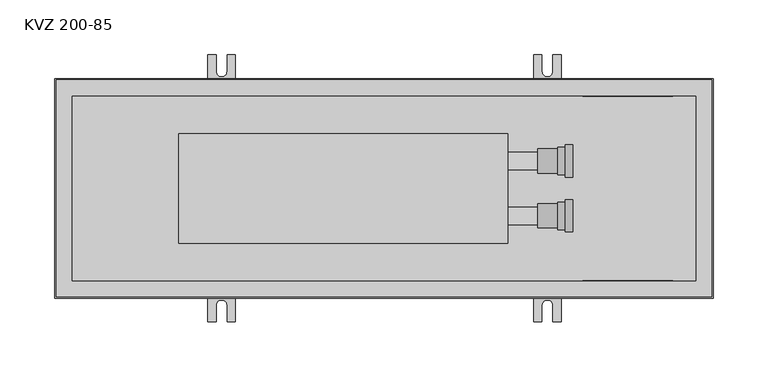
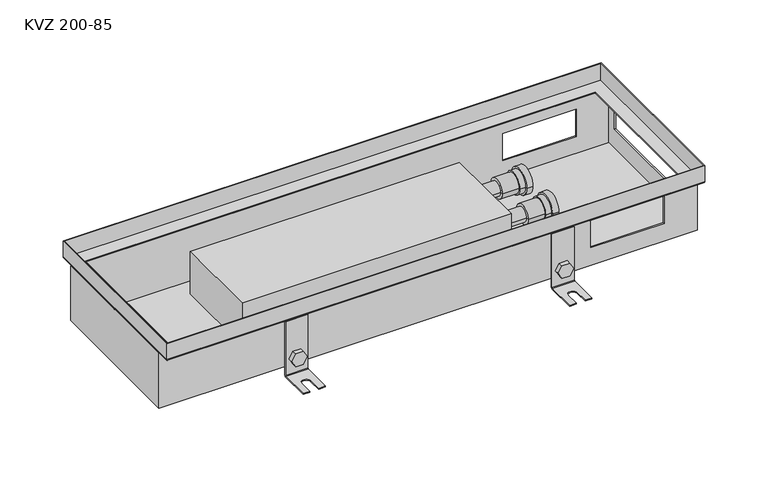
"""IFC4 building model written with IfcOpenShell, lengths in millimetres: proxy geometry, TECHNO_Конвектор встраиваемый_Usual_KVZ-200_85-105-120 : KVZ 200-85."""

from ifc_helpers import new_model, si_unit, point, frame, frame_2d, origin, place, context, project, spatial, polyline, circle_curve, ellipse_curve, trimmed, segment, composite_curve, outline, extrude, faceted_brep, source, transform, mapped, element, save
from ifc_brep_helpers import plane_surface, cylinder_surface, revolved_surface, advanced_brep


def kvz_200_85_5eb95e34(model_context):
    return source(origin(), model_context, "Body", "SolidModel", [
        extrude(outline(composite_curve([segment(trimmed(circle_curve(frame_2d((-75.5, 449.0)), 7.5), [point((-75.5, 441.5))], [point((-75.5, 456.5))], False, "CARTESIAN"), True, "CONTINUOUS"), segment(trimmed(circle_curve(frame_2d((-75.5, 449.0)), 7.5), [point((-75.5, 456.5))], [point((-75.5, 441.5))], False, "CARTESIAN"), True, "CONTINUOUS")], self_intersect=False)), frame((0.0, 85.2, 0.0), z_axis=(0.0, 1.0, 0.0), x_axis=(0.0, 0.0, 1.0)), (0.0, 0.0, 1.0), 1.5),
        extrude(outline(polyline([(-75.5, 440.339746), (-83.0, 444.669873), (-83.0, 453.330127), (-75.5, 457.660254), (-68.0, 453.330127), (-68.0, 444.669873), (-75.5, 440.339746)])), frame((0.0, 87.9, 0.0), z_axis=(0.0, 1.0, 0.0), x_axis=(0.0, 0.0, 1.0)), (0.0, 0.0, 1.0), 5.1),
        advanced_brep(
        [(461.5, 87.9, -30.5), (461.5, 86.7, -30.5), (461.5, 86.7, -93.5), (461.5, 88.7, -95.5), (461.5, 121.7, -95.5), (461.5, 121.7, -94.3), (461.5, 88.7, -94.3), (461.5, 87.9, -93.5), (436.5, 87.9, -30.5), (436.5, 87.9, -93.5), (436.5, 88.7, -94.3), (436.5, 121.7, -94.3), (436.5, 121.7, -95.5), (436.5, 88.7, -95.5), (436.5, 86.7, -93.5), (436.5, 86.7, -30.5), (454.0, 121.7, -94.3), (454.0, 106.7, -94.3), (444.0, 106.7, -94.3), (444.0, 121.7, -94.3), (444.0, 121.7, -95.5), (454.0, 121.7, -95.5), (444.0, 106.7, -95.5), (454.0, 106.7, -95.5)],
        [
            (0, 1),
            (1, 2),
            (2, 3, circle_curve(frame((461.5, 88.7, -93.5), z_axis=(1.0, 0.0, 0.0), x_axis=(0.0, 1.0, 0.0)), 2.0)),
            (3, 4),
            (4, 5),
            (5, 6),
            (6, 7, circle_curve(frame((461.5, 88.7, -93.5), z_axis=(-1.0, 0.0, 0.0), x_axis=(0.0, 1.0, 0.0)), 0.8)),
            (7, 0),
            (8, 9),
            (9, 10, circle_curve(frame((436.5, 88.7, -93.5), z_axis=(1.0, 0.0, 0.0), x_axis=(0.0, 1.0, 0.0)), 0.8)),
            (10, 11),
            (11, 12),
            (12, 13),
            (13, 14, circle_curve(frame((436.5, 88.7, -93.5), z_axis=(-1.0, 0.0, 0.0), x_axis=(0.0, 1.0, 0.0)), 2.0)),
            (14, 15),
            (15, 8),
            (7, 9),
            (8, 0),
            (6, 10),
            (5, 16),
            (16, 17),
            (17, 18, circle_curve(frame((449.0, 106.7, -94.3), z_axis=(0.0, 0.0, -1.0), x_axis=(1.0, 0.0, 0.0)), 5.0)),
            (18, 19),
            (19, 11),
            (19, 20),
            (20, 12),
            (4, 21),
            (21, 16),
            (3, 13),
            (20, 22),
            (22, 23, circle_curve(frame((449.0, 106.7, -95.5), z_axis=(0.0, 0.0, 1.0), x_axis=(1.0, 0.0, 0.0)), 5.0)),
            (23, 21),
            (2, 14),
            (1, 15),
            (18, 22),
            (23, 17),
        ],
        [
            plane_surface(frame((461.5, 87.9, -30.5), z_axis=(1.0, 0.0, 0.0), x_axis=(0.0, 0.0, -1.0))),
            plane_surface(frame((436.5, 87.9, -30.5), z_axis=(-1.0, 0.0, 0.0), x_axis=(0.0, 0.0, 1.0))),
            plane_surface(frame((461.5, 87.9, -30.5), z_axis=(0.0, 1.0, 0.0), x_axis=(-1.0, 0.0, 0.0))),
            revolved_surface(polyline([(436.5, 89.5, -93.5), (461.5, 89.5, -93.5)]), (436.5, 88.7, -93.5), (-1.0, 0.0, 0.0)),
            plane_surface(frame((461.5, 88.7, -94.3), z_axis=(0.0, 0.0, 1.0), x_axis=(-1.0, 0.0, 0.0))),
            plane_surface(frame((461.5, 121.7, -94.3), z_axis=(0.0, 1.0, 0.0), x_axis=(-1.0, 0.0, 0.0))),
            plane_surface(frame((461.5, 121.7, -95.5), z_axis=(0.0, 0.0, -1.0), x_axis=(-1.0, 0.0, 0.0))),
            cylinder_surface(frame((436.5, 88.7, -93.5), z_axis=(1.0, 0.0, 0.0), x_axis=(0.0, 1.0, 0.0)), 2.0),
            plane_surface(frame((461.5, 86.7, -93.5), z_axis=(0.0, -1.0, 0.0), x_axis=(-1.0, 0.0, 0.0))),
            plane_surface(frame((461.5, 86.7, -30.5), z_axis=(0.0, 0.0, 1.0), x_axis=(-1.0, 0.0, 0.0))),
            plane_surface(frame((444.0, 106.7, -94.3), z_axis=(1.0, 0.0, 0.0), x_axis=(0.0, 0.0, -1.0))),
            plane_surface(frame((454.0, 121.7, -94.3), z_axis=(-1.0, 0.0, 0.0), x_axis=(0.0, 0.0, -1.0))),
            revolved_surface(polyline([(454.0, 106.7, -94.3), (454.0, 106.7, -95.5)]), (449.0, 106.7, -95.5), (0.0, 0.0, 1.0)),
        ],
        [
            (0, [[1, 2, 3, 4, 5, 6, 7, 8]]),
            (1, [[9, 10, 11, 12, 13, 14, 15, 16]]),
            (2, [[17, -9, 18, -8]]),
            (3, [[19, -10, -17, -7]]),
            (4, [[20, 21, 22, 23, 24, -11, -19, -6]]),
            (5, [[-24, 25, 26, -12]]),
            (5, [[27, 28, -20, -5]]),
            (6, [[29, -13, -26, 30, 31, 32, -27, -4]]),
            (7, [[33, -14, -29, -3]]),
            (8, [[34, -15, -33, -2]]),
            (9, [[-18, -16, -34, -1]]),
            (10, [[-30, -25, -23, 35]]),
            (11, [[-21, -28, -32, 36]]),
            (12, [[-22, -36, -31, -35]]),
        ],
    ),
        extrude(outline(composite_curve([segment(trimmed(circle_curve(frame_2d((-75.5, 449.0)), 7.5), [point((-75.5, 441.5))], [point((-75.5, 456.5))], False, "CARTESIAN"), True, "CONTINUOUS"), segment(trimmed(circle_curve(frame_2d((-75.5, 449.0)), 7.5), [point((-75.5, 456.5))], [point((-75.5, 441.5))], False, "CARTESIAN"), True, "CONTINUOUS")], self_intersect=False)), frame((0.0, -86.7, 0.0), z_axis=(0.0, 1.0, 0.0), x_axis=(0.0, 0.0, 1.0)), (0.0, 0.0, 1.0), 1.5),
        extrude(outline(polyline([(-75.5, 440.339746), (-83.0, 444.669873), (-83.0, 453.330127), (-75.5, 457.660254), (-68.0, 453.330127), (-68.0, 444.669873), (-75.5, 440.339746)])), frame((0.0, -93.0, 0.0), z_axis=(0.0, 1.0, 0.0), x_axis=(0.0, 0.0, 1.0)), (0.0, 0.0, 1.0), 5.1),
        advanced_brep(
        [(461.5, -87.9, -30.5), (461.5, -87.9, -93.5), (461.5, -88.7, -94.3), (461.5, -121.7, -94.3), (461.5, -121.7, -95.5), (461.5, -88.7, -95.5), (461.5, -86.7, -93.5), (461.5, -86.7, -30.5), (436.5, -87.9, -30.5), (436.5, -86.7, -30.5), (436.5, -86.7, -93.5), (436.5, -88.7, -95.5), (436.5, -121.7, -95.5), (436.5, -121.7, -94.3), (436.5, -88.7, -94.3), (436.5, -87.9, -93.5), (444.0, -121.7, -94.3), (444.0, -106.7, -94.3), (454.0, -106.7, -94.3), (454.0, -121.7, -94.3), (454.0, -121.7, -95.5), (444.0, -121.7, -95.5), (454.0, -106.7, -95.5), (444.0, -106.7, -95.5)],
        [
            (0, 1),
            (1, 2, circle_curve(frame((461.5, -88.7, -93.5), z_axis=(-1.0, 0.0, 0.0), x_axis=(0.0, -1.0, 0.0)), 0.8)),
            (2, 3),
            (3, 4),
            (4, 5),
            (5, 6, circle_curve(frame((461.5, -88.7, -93.5), z_axis=(1.0, 0.0, 0.0), x_axis=(0.0, -1.0, 0.0)), 2.0)),
            (6, 7),
            (7, 0),
            (8, 9),
            (9, 10),
            (10, 11, circle_curve(frame((436.5, -88.7, -93.5), z_axis=(-1.0, 0.0, 0.0), x_axis=(0.0, -1.0, 0.0)), 2.0)),
            (11, 12),
            (12, 13),
            (13, 14),
            (14, 15, circle_curve(frame((436.5, -88.7, -93.5), z_axis=(1.0, 0.0, 0.0), x_axis=(0.0, -1.0, 0.0)), 0.8)),
            (15, 8),
            (0, 8),
            (15, 1),
            (14, 2),
            (13, 16),
            (16, 17),
            (17, 18, circle_curve(frame((449.0, -106.7, -94.3), z_axis=(0.0, 0.0, -1.0), x_axis=(1.0, 0.0, 0.0)), 5.0)),
            (18, 19),
            (19, 3),
            (19, 20),
            (20, 4),
            (12, 21),
            (21, 16),
            (20, 22),
            (22, 23, circle_curve(frame((449.0, -106.7, -95.5), z_axis=(0.0, 0.0, 1.0), x_axis=(1.0, 0.0, 0.0)), 5.0)),
            (23, 21),
            (11, 5),
            (10, 6),
            (9, 7),
            (23, 17),
            (18, 22),
        ],
        [
            plane_surface(frame((461.5, -87.9, -30.5), z_axis=(1.0, 0.0, 0.0), x_axis=(0.0, 0.0, -1.0))),
            plane_surface(frame((436.5, -87.9, -30.5), z_axis=(-1.0, 0.0, 0.0), x_axis=(0.0, 0.0, 1.0))),
            plane_surface(frame((461.5, -87.9, -30.5), z_axis=(0.0, -1.0, 0.0), x_axis=(-1.0, 0.0, 0.0))),
            revolved_surface(polyline([(436.5, -89.5, -93.5), (461.5, -89.5, -93.5)]), (436.5, -88.7, -93.5), (-1.0, 0.0, 0.0)),
            plane_surface(frame((461.5, -88.7, -94.3), z_axis=(0.0, 0.0, 1.0), x_axis=(-1.0, 0.0, 0.0))),
            plane_surface(frame((461.5, -121.7, -94.3), z_axis=(0.0, -1.0, 0.0), x_axis=(-1.0, 0.0, 0.0))),
            plane_surface(frame((461.5, -121.7, -95.5), z_axis=(0.0, 0.0, -1.0), x_axis=(-1.0, 0.0, 0.0))),
            cylinder_surface(frame((436.5, -88.7, -93.5), z_axis=(1.0, 0.0, 0.0), x_axis=(0.0, -1.0, 0.0)), 2.0),
            plane_surface(frame((461.5, -86.7, -93.5), z_axis=(0.0, 1.0, 0.0), x_axis=(-1.0, 0.0, 0.0))),
            plane_surface(frame((461.5, -86.7, -30.5), z_axis=(0.0, 0.0, 1.0), x_axis=(-1.0, 0.0, 0.0))),
            plane_surface(frame((444.0, -106.7, -94.3), z_axis=(1.0, 0.0, 0.0), x_axis=(0.0, 0.0, -1.0))),
            plane_surface(frame((454.0, -121.7, -94.3), z_axis=(-1.0, 0.0, 0.0), x_axis=(0.0, 0.0, -1.0))),
            revolved_surface(polyline([(454.0, -106.7, -94.3), (454.0, -106.7, -95.5)]), (449.0, -106.7, -95.5), (0.0, 0.0, 1.0)),
        ],
        [
            (0, [[1, 2, 3, 4, 5, 6, 7, 8]]),
            (1, [[9, 10, 11, 12, 13, 14, 15, 16]]),
            (2, [[-1, 17, -16, 18]]),
            (3, [[-2, -18, -15, 19]]),
            (4, [[-3, -19, -14, 20, 21, 22, 23, 24]]),
            (5, [[-4, -24, 25, 26]]),
            (5, [[-13, 27, 28, -20]]),
            (6, [[-5, -26, 29, 30, 31, -27, -12, 32]]),
            (7, [[-6, -32, -11, 33]]),
            (8, [[-7, -33, -10, 34]]),
            (9, [[-8, -34, -9, -17]]),
            (10, [[35, -21, -28, -31]]),
            (11, [[36, -29, -25, -23]]),
            (12, [[-35, -30, -36, -22]]),
        ],
    ),
        extrude(outline(composite_curve([segment(trimmed(circle_curve(frame_2d((-75.5, 152.0)), 7.5), [point((-75.5, 144.5))], [point((-75.5, 159.5))], False, "CARTESIAN"), True, "CONTINUOUS"), segment(trimmed(circle_curve(frame_2d((-75.5, 152.0)), 7.5), [point((-75.5, 159.5))], [point((-75.5, 144.5))], False, "CARTESIAN"), True, "CONTINUOUS")], self_intersect=False)), frame((0.0, 85.2, 0.0), z_axis=(0.0, 1.0, 0.0), x_axis=(0.0, 0.0, 1.0)), (0.0, 0.0, 1.0), 1.5),
        extrude(outline(polyline([(-75.5, 143.339746), (-83.0, 147.669873), (-83.0, 156.330127), (-75.5, 160.660254), (-68.0, 156.330127), (-68.0, 147.669873), (-75.5, 143.339746)])), frame((0.0, 87.9, 0.0), z_axis=(0.0, 1.0, 0.0), x_axis=(0.0, 0.0, 1.0)), (0.0, 0.0, 1.0), 5.1),
        advanced_brep(
        [(164.5, 87.9, -30.5), (164.5, 86.7, -30.5), (164.5, 86.7, -93.5), (164.5, 88.7, -95.5), (164.5, 121.7, -95.5), (164.5, 121.7, -94.3), (164.5, 88.7, -94.3), (164.5, 87.9, -93.5), (139.5, 87.9, -30.5), (139.5, 87.9, -93.5), (139.5, 88.7, -94.3), (139.5, 121.7, -94.3), (139.5, 121.7, -95.5), (139.5, 88.7, -95.5), (139.5, 86.7, -93.5), (139.5, 86.7, -30.5), (157.0, 121.7, -94.3), (157.0, 106.7, -94.3), (147.0, 106.7, -94.3), (147.0, 121.7, -94.3), (147.0, 121.7, -95.5), (157.0, 121.7, -95.5), (147.0, 106.7, -95.5), (157.0, 106.7, -95.5)],
        [
            (0, 1),
            (1, 2),
            (2, 3, circle_curve(frame((164.5, 88.7, -93.5), z_axis=(1.0, 0.0, 0.0), x_axis=(0.0, 1.0, 0.0)), 2.0)),
            (3, 4),
            (4, 5),
            (5, 6),
            (6, 7, circle_curve(frame((164.5, 88.7, -93.5), z_axis=(-1.0, 0.0, 0.0), x_axis=(0.0, 1.0, 0.0)), 0.8)),
            (7, 0),
            (8, 9),
            (9, 10, circle_curve(frame((139.5, 88.7, -93.5), z_axis=(1.0, 0.0, 0.0), x_axis=(0.0, 1.0, 0.0)), 0.8)),
            (10, 11),
            (11, 12),
            (12, 13),
            (13, 14, circle_curve(frame((139.5, 88.7, -93.5), z_axis=(-1.0, 0.0, 0.0), x_axis=(0.0, 1.0, 0.0)), 2.0)),
            (14, 15),
            (15, 8),
            (7, 9),
            (8, 0),
            (6, 10),
            (5, 16),
            (16, 17),
            (17, 18, circle_curve(frame((152.0, 106.7, -94.3), z_axis=(0.0, 0.0, -1.0), x_axis=(1.0, 0.0, 0.0)), 5.0)),
            (18, 19),
            (19, 11),
            (19, 20),
            (20, 12),
            (4, 21),
            (21, 16),
            (3, 13),
            (20, 22),
            (22, 23, circle_curve(frame((152.0, 106.7, -95.5), z_axis=(0.0, 0.0, 1.0), x_axis=(1.0, 0.0, 0.0)), 5.0)),
            (23, 21),
            (2, 14),
            (1, 15),
            (18, 22),
            (23, 17),
        ],
        [
            plane_surface(frame((164.5, 87.9, -30.5), z_axis=(1.0, 0.0, 0.0), x_axis=(0.0, 0.0, -1.0))),
            plane_surface(frame((139.5, 87.9, -30.5), z_axis=(-1.0, 0.0, 0.0), x_axis=(0.0, 0.0, 1.0))),
            plane_surface(frame((164.5, 87.9, -30.5), z_axis=(0.0, 1.0, 0.0), x_axis=(-1.0, 0.0, 0.0))),
            revolved_surface(polyline([(139.5, 89.5, -93.5), (164.5, 89.5, -93.5)]), (139.5, 88.7, -93.5), (-1.0, 0.0, 0.0)),
            plane_surface(frame((164.5, 88.7, -94.3), z_axis=(0.0, 0.0, 1.0), x_axis=(-1.0, 0.0, 0.0))),
            plane_surface(frame((164.5, 121.7, -94.3), z_axis=(0.0, 1.0, 0.0), x_axis=(-1.0, 0.0, 0.0))),
            plane_surface(frame((164.5, 121.7, -95.5), z_axis=(0.0, 0.0, -1.0), x_axis=(-1.0, 0.0, 0.0))),
            cylinder_surface(frame((139.5, 88.7, -93.5), z_axis=(1.0, 0.0, 0.0), x_axis=(0.0, 1.0, 0.0)), 2.0),
            plane_surface(frame((164.5, 86.7, -93.5), z_axis=(0.0, -1.0, 0.0), x_axis=(-1.0, 0.0, 0.0))),
            plane_surface(frame((164.5, 86.7, -30.5), z_axis=(0.0, 0.0, 1.0), x_axis=(-1.0, 0.0, 0.0))),
            plane_surface(frame((147.0, 106.7, -94.3), z_axis=(1.0, 0.0, 0.0), x_axis=(0.0, 0.0, -1.0))),
            plane_surface(frame((157.0, 121.7, -94.3), z_axis=(-1.0, 0.0, 0.0), x_axis=(0.0, 0.0, -1.0))),
            revolved_surface(polyline([(157.0, 106.7, -94.3), (157.0, 106.7, -95.5)]), (152.0, 106.7, -95.5), (0.0, 0.0, 1.0)),
        ],
        [
            (0, [[1, 2, 3, 4, 5, 6, 7, 8]]),
            (1, [[9, 10, 11, 12, 13, 14, 15, 16]]),
            (2, [[17, -9, 18, -8]]),
            (3, [[19, -10, -17, -7]]),
            (4, [[20, 21, 22, 23, 24, -11, -19, -6]]),
            (5, [[-24, 25, 26, -12]]),
            (5, [[27, 28, -20, -5]]),
            (6, [[29, -13, -26, 30, 31, 32, -27, -4]]),
            (7, [[33, -14, -29, -3]]),
            (8, [[34, -15, -33, -2]]),
            (9, [[-18, -16, -34, -1]]),
            (10, [[-30, -25, -23, 35]]),
            (11, [[-21, -28, -32, 36]]),
            (12, [[-22, -36, -31, -35]]),
        ],
    ),
        extrude(outline(composite_curve([segment(trimmed(circle_curve(frame_2d((-75.5, 152.0)), 7.5), [point((-75.5, 144.5))], [point((-75.5, 159.5))], False, "CARTESIAN"), True, "CONTINUOUS"), segment(trimmed(circle_curve(frame_2d((-75.5, 152.0)), 7.5), [point((-75.5, 159.5))], [point((-75.5, 144.5))], False, "CARTESIAN"), True, "CONTINUOUS")], self_intersect=False)), frame((0.0, -86.7, 0.0), z_axis=(0.0, 1.0, 0.0), x_axis=(0.0, 0.0, 1.0)), (0.0, 0.0, 1.0), 1.5),
        extrude(outline(polyline([(-75.5, 143.339746), (-83.0, 147.669873), (-83.0, 156.330127), (-75.5, 160.660254), (-68.0, 156.330127), (-68.0, 147.669873), (-75.5, 143.339746)])), frame((0.0, -93.0, 0.0), z_axis=(0.0, 1.0, 0.0), x_axis=(0.0, 0.0, 1.0)), (0.0, 0.0, 1.0), 5.1),
        advanced_brep(
        [(164.5, -87.9, -30.5), (164.5, -87.9, -93.5), (164.5, -88.7, -94.3), (164.5, -121.7, -94.3), (164.5, -121.7, -95.5), (164.5, -88.7, -95.5), (164.5, -86.7, -93.5), (164.5, -86.7, -30.5), (139.5, -87.9, -30.5), (139.5, -86.7, -30.5), (139.5, -86.7, -93.5), (139.5, -88.7, -95.5), (139.5, -121.7, -95.5), (139.5, -121.7, -94.3), (139.5, -88.7, -94.3), (139.5, -87.9, -93.5), (147.0, -121.7, -94.3), (147.0, -106.7, -94.3), (157.0, -106.7, -94.3), (157.0, -121.7, -94.3), (157.0, -121.7, -95.5), (147.0, -121.7, -95.5), (157.0, -106.7, -95.5), (147.0, -106.7, -95.5)],
        [
            (0, 1),
            (1, 2, circle_curve(frame((164.5, -88.7, -93.5), z_axis=(-1.0, 0.0, 0.0), x_axis=(0.0, -1.0, 0.0)), 0.8)),
            (2, 3),
            (3, 4),
            (4, 5),
            (5, 6, circle_curve(frame((164.5, -88.7, -93.5), z_axis=(1.0, 0.0, 0.0), x_axis=(0.0, -1.0, 0.0)), 2.0)),
            (6, 7),
            (7, 0),
            (8, 9),
            (9, 10),
            (10, 11, circle_curve(frame((139.5, -88.7, -93.5), z_axis=(-1.0, 0.0, 0.0), x_axis=(0.0, -1.0, 0.0)), 2.0)),
            (11, 12),
            (12, 13),
            (13, 14),
            (14, 15, circle_curve(frame((139.5, -88.7, -93.5), z_axis=(1.0, 0.0, 0.0), x_axis=(0.0, -1.0, 0.0)), 0.8)),
            (15, 8),
            (0, 8),
            (15, 1),
            (14, 2),
            (13, 16),
            (16, 17),
            (17, 18, circle_curve(frame((152.0, -106.7, -94.3), z_axis=(0.0, 0.0, -1.0), x_axis=(1.0, 0.0, 0.0)), 5.0)),
            (18, 19),
            (19, 3),
            (19, 20),
            (20, 4),
            (12, 21),
            (21, 16),
            (20, 22),
            (22, 23, circle_curve(frame((152.0, -106.7, -95.5), z_axis=(0.0, 0.0, 1.0), x_axis=(1.0, 0.0, 0.0)), 5.0)),
            (23, 21),
            (11, 5),
            (10, 6),
            (9, 7),
            (23, 17),
            (18, 22),
        ],
        [
            plane_surface(frame((164.5, -87.9, -30.5), z_axis=(1.0, 0.0, 0.0), x_axis=(0.0, 0.0, -1.0))),
            plane_surface(frame((139.5, -87.9, -30.5), z_axis=(-1.0, 0.0, 0.0), x_axis=(0.0, 0.0, 1.0))),
            plane_surface(frame((164.5, -87.9, -30.5), z_axis=(0.0, -1.0, 0.0), x_axis=(-1.0, 0.0, 0.0))),
            revolved_surface(polyline([(139.5, -89.5, -93.5), (164.5, -89.5, -93.5)]), (139.5, -88.7, -93.5), (-1.0, 0.0, 0.0)),
            plane_surface(frame((164.5, -88.7, -94.3), z_axis=(0.0, 0.0, 1.0), x_axis=(-1.0, 0.0, 0.0))),
            plane_surface(frame((164.5, -121.7, -94.3), z_axis=(0.0, -1.0, 0.0), x_axis=(-1.0, 0.0, 0.0))),
            plane_surface(frame((164.5, -121.7, -95.5), z_axis=(0.0, 0.0, -1.0), x_axis=(-1.0, 0.0, 0.0))),
            cylinder_surface(frame((139.5, -88.7, -93.5), z_axis=(1.0, 0.0, 0.0), x_axis=(0.0, -1.0, 0.0)), 2.0),
            plane_surface(frame((164.5, -86.7, -93.5), z_axis=(0.0, 1.0, 0.0), x_axis=(-1.0, 0.0, 0.0))),
            plane_surface(frame((164.5, -86.7, -30.5), z_axis=(0.0, 0.0, 1.0), x_axis=(-1.0, 0.0, 0.0))),
            plane_surface(frame((147.0, -106.7, -94.3), z_axis=(1.0, 0.0, 0.0), x_axis=(0.0, 0.0, -1.0))),
            plane_surface(frame((157.0, -121.7, -94.3), z_axis=(-1.0, 0.0, 0.0), x_axis=(0.0, 0.0, -1.0))),
            revolved_surface(polyline([(157.0, -106.7, -94.3), (157.0, -106.7, -95.5)]), (152.0, -106.7, -95.5), (0.0, 0.0, 1.0)),
        ],
        [
            (0, [[1, 2, 3, 4, 5, 6, 7, 8]]),
            (1, [[9, 10, 11, 12, 13, 14, 15, 16]]),
            (2, [[-1, 17, -16, 18]]),
            (3, [[-2, -18, -15, 19]]),
            (4, [[-3, -19, -14, 20, 21, 22, 23, 24]]),
            (5, [[-4, -24, 25, 26]]),
            (5, [[-13, 27, 28, -20]]),
            (6, [[-5, -26, 29, 30, 31, -27, -12, 32]]),
            (7, [[-6, -32, -11, 33]]),
            (8, [[-7, -33, -10, 34]]),
            (9, [[-8, -34, -9, -17]]),
            (10, [[35, -21, -28, -31]]),
            (11, [[36, -29, -25, -23]]),
            (12, [[-35, -30, -36, -22]]),
        ],
    ),
        extrude(outline(polyline([(413.0, 50.0), (413.0, -50.0), (113.0, -50.0), (113.0, 50.0), (413.0, 50.0)])), frame((0.0, 0.0, -71.5), z_axis=(0.0, 0.0, 1.0), x_axis=(1.0, 0.0, 0.0)), (0.0, 0.0, 1.0), 50.0),
        advanced_brep(
        [(440.0, 25.0, -46.5), (440.0, 36.0, -46.5), (440.0, 14.0, -46.5), (458.5, 36.0, -46.5), (458.5, 14.0, -46.5), (458.5, 37.5, -46.5), (458.5, 12.5, -46.5), (465.0, 37.5, -46.5), (465.0, 12.5, -46.5), (465.0, 39.7, -46.5), (465.0, 10.3, -46.5), (472.0, 39.7, -46.5), (472.0, 10.3, -46.5), (472.0, 25.0, -46.5)],
        [
            (0, 1),
            (1, 2, circle_curve(frame((440.0, 25.0, -46.5), z_axis=(-1.0, 0.0, 0.0), x_axis=(0.0, 1.0, 0.0)), 11.0)),
            (2, 0),
            (2, 1, circle_curve(frame((440.0, 25.0, -46.5), z_axis=(-1.0, 0.0, 0.0), x_axis=(0.0, 1.0, 0.0)), 11.0)),
            (1, 3),
            (3, 4, circle_curve(frame((458.5, 25.0, -46.5), z_axis=(-1.0, 0.0, 0.0), x_axis=(0.0, 1.0, 0.0)), 11.0)),
            (4, 2),
            (4, 3, circle_curve(frame((458.5, 25.0, -46.5), z_axis=(-1.0, 0.0, 0.0), x_axis=(0.0, 1.0, 0.0)), 11.0)),
            (3, 5),
            (5, 6, circle_curve(frame((458.5, 25.0, -46.5), z_axis=(-1.0, 0.0, 0.0), x_axis=(0.0, 1.0, 0.0)), 12.5)),
            (6, 4),
            (6, 5, circle_curve(frame((458.5, 25.0, -46.5), z_axis=(-1.0, 0.0, 0.0), x_axis=(0.0, 1.0, 0.0)), 12.5)),
            (5, 7),
            (7, 8, circle_curve(frame((465.0, 25.0, -46.5), z_axis=(-1.0, 0.0, 0.0), x_axis=(0.0, 1.0, 0.0)), 12.5)),
            (8, 6),
            (8, 7, circle_curve(frame((465.0, 25.0, -46.5), z_axis=(-1.0, 0.0, 0.0), x_axis=(0.0, 1.0, 0.0)), 12.5)),
            (7, 9),
            (9, 10, circle_curve(frame((465.0, 25.0, -46.5), z_axis=(-1.0, 0.0, 0.0), x_axis=(0.0, 1.0, 0.0)), 14.7)),
            (10, 8),
            (10, 9, circle_curve(frame((465.0, 25.0, -46.5), z_axis=(-1.0, 0.0, 0.0), x_axis=(0.0, 1.0, 0.0)), 14.7)),
            (9, 11),
            (11, 12, circle_curve(frame((472.0, 25.0, -46.5), z_axis=(-1.0, 0.0, 0.0), x_axis=(0.0, 1.0, 0.0)), 14.7)),
            (12, 10),
            (12, 11, circle_curve(frame((472.0, 25.0, -46.5), z_axis=(-1.0, 0.0, 0.0), x_axis=(0.0, 1.0, 0.0)), 14.7)),
            (11, 13),
            (13, 12),
        ],
        [
            plane_surface(frame((440.0, 25.0, -46.5), z_axis=(-1.0, 0.0, 0.0), x_axis=(0.0, 1.0, 0.0))),
            cylinder_surface(frame((480.0, 25.0, -46.5), z_axis=(-1.0, 0.0, 0.0), x_axis=(0.0, 1.0, 0.0)), 11.0),
            plane_surface(frame((458.5, 25.0, -46.5), z_axis=(-1.0, 0.0, 0.0), x_axis=(0.0, 1.0, 0.0))),
            cylinder_surface(frame((480.0, 25.0, -46.5), z_axis=(-1.0, 0.0, 0.0), x_axis=(0.0, 1.0, 0.0)), 12.5),
            plane_surface(frame((465.0, 25.0, -46.5), z_axis=(-1.0, 0.0, 0.0), x_axis=(0.0, 1.0, 0.0))),
            cylinder_surface(frame((480.0, 25.0, -46.5), z_axis=(-1.0, 0.0, 0.0), x_axis=(0.0, 1.0, 0.0)), 14.7),
            plane_surface(frame((472.0, 25.0, -46.5), z_axis=(1.0, 0.0, 0.0), x_axis=(0.0, 1.0, 0.0))),
        ],
        [
            (0, [[1, 2, 3]]),
            (0, [[-3, 4, -1]]),
            (1, [[-2, 5, 6, 7]]),
            (1, [[-4, -7, 8, -5]]),
            (2, [[-6, 9, 10, 11]]),
            (2, [[-8, -11, 12, -9]]),
            (3, [[-10, 13, 14, 15]]),
            (3, [[-12, -15, 16, -13]]),
            (4, [[-14, 17, 18, 19]]),
            (4, [[-16, -19, 20, -17]]),
            (5, [[-18, 21, 22, 23]]),
            (5, [[-20, -23, 24, -21]]),
            (6, [[-22, 25, 26]]),
            (6, [[-24, -26, -25]]),
        ],
    ),
        advanced_brep(
        [(440.0, -25.0, -46.5), (440.0, -14.0, -46.5), (440.0, -36.0, -46.5), (458.5, -14.0, -46.5), (458.5, -36.0, -46.5), (458.5, -12.5, -46.5), (458.5, -37.5, -46.5), (465.0, -12.5, -46.5), (465.0, -37.5, -46.5), (465.0, -10.3, -46.5), (465.0, -39.7, -46.5), (472.0, -10.3, -46.5), (472.0, -39.7, -46.5), (472.0, -25.0, -46.5)],
        [
            (0, 1),
            (1, 2, circle_curve(frame((440.0, -25.0, -46.5), z_axis=(-1.0, 0.0, 0.0), x_axis=(0.0, 1.0, 0.0)), 11.0)),
            (2, 0),
            (2, 1, circle_curve(frame((440.0, -25.0, -46.5), z_axis=(-1.0, 0.0, 0.0), x_axis=(0.0, 1.0, 0.0)), 11.0)),
            (1, 3),
            (3, 4, circle_curve(frame((458.5, -25.0, -46.5), z_axis=(-1.0, 0.0, 0.0), x_axis=(0.0, 1.0, 0.0)), 11.0)),
            (4, 2),
            (4, 3, circle_curve(frame((458.5, -25.0, -46.5), z_axis=(-1.0, 0.0, 0.0), x_axis=(0.0, 1.0, 0.0)), 11.0)),
            (3, 5),
            (5, 6, circle_curve(frame((458.5, -25.0, -46.5), z_axis=(-1.0, 0.0, 0.0), x_axis=(0.0, 1.0, 0.0)), 12.5)),
            (6, 4),
            (6, 5, circle_curve(frame((458.5, -25.0, -46.5), z_axis=(-1.0, 0.0, 0.0), x_axis=(0.0, 1.0, 0.0)), 12.5)),
            (5, 7),
            (7, 8, circle_curve(frame((465.0, -25.0, -46.5), z_axis=(-1.0, 0.0, 0.0), x_axis=(0.0, 1.0, 0.0)), 12.5)),
            (8, 6),
            (8, 7, circle_curve(frame((465.0, -25.0, -46.5), z_axis=(-1.0, 0.0, 0.0), x_axis=(0.0, 1.0, 0.0)), 12.5)),
            (7, 9),
            (9, 10, circle_curve(frame((465.0, -25.0, -46.5), z_axis=(-1.0, 0.0, 0.0), x_axis=(0.0, 1.0, 0.0)), 14.7)),
            (10, 8),
            (10, 9, circle_curve(frame((465.0, -25.0, -46.5), z_axis=(-1.0, 0.0, 0.0), x_axis=(0.0, 1.0, 0.0)), 14.7)),
            (9, 11),
            (11, 12, circle_curve(frame((472.0, -25.0, -46.5), z_axis=(-1.0, 0.0, 0.0), x_axis=(0.0, 1.0, 0.0)), 14.7)),
            (12, 10),
            (12, 11, circle_curve(frame((472.0, -25.0, -46.5), z_axis=(-1.0, 0.0, 0.0), x_axis=(0.0, 1.0, 0.0)), 14.7)),
            (11, 13),
            (13, 12),
        ],
        [
            plane_surface(frame((440.0, -25.0, -46.5), z_axis=(-1.0, 0.0, 0.0), x_axis=(0.0, 1.0, 0.0))),
            cylinder_surface(frame((480.0, -25.0, -46.5), z_axis=(-1.0, 0.0, 0.0), x_axis=(0.0, 1.0, 0.0)), 11.0),
            plane_surface(frame((458.5, -25.0, -46.5), z_axis=(-1.0, 0.0, 0.0), x_axis=(0.0, 1.0, 0.0))),
            cylinder_surface(frame((480.0, -25.0, -46.5), z_axis=(-1.0, 0.0, 0.0), x_axis=(0.0, 1.0, 0.0)), 12.5),
            plane_surface(frame((465.0, -25.0, -46.5), z_axis=(-1.0, 0.0, 0.0), x_axis=(0.0, 1.0, 0.0))),
            cylinder_surface(frame((480.0, -25.0, -46.5), z_axis=(-1.0, 0.0, 0.0), x_axis=(0.0, 1.0, 0.0)), 14.7),
            plane_surface(frame((472.0, -25.0, -46.5), z_axis=(1.0, 0.0, 0.0), x_axis=(0.0, 1.0, 0.0))),
        ],
        [
            (0, [[1, 2, 3]]),
            (0, [[-3, 4, -1]]),
            (1, [[-2, 5, 6, 7]]),
            (1, [[-4, -7, 8, -5]]),
            (2, [[-6, 9, 10, 11]]),
            (2, [[-8, -11, 12, -9]]),
            (3, [[-10, 13, 14, 15]]),
            (3, [[-12, -15, 16, -13]]),
            (4, [[-14, 17, 18, 19]]),
            (4, [[-16, -19, 20, -17]]),
            (5, [[-18, 21, 22, 23]]),
            (5, [[-20, -23, 24, -21]]),
            (6, [[-22, 25, 26]]),
            (6, [[-24, -26, -25]]),
        ],
    ),
        extrude(outline(composite_curve([segment(trimmed(circle_curve(frame_2d((25.0, -46.5)), 8.0), [point((17.0, -46.5))], [point((33.0, -46.5))], False, "CARTESIAN"), True, "CONTINUOUS"), segment(trimmed(circle_curve(frame_2d((25.0, -46.5)), 8.0), [point((33.0, -46.5))], [point((17.0, -46.5))], False, "CARTESIAN"), True, "CONTINUOUS")], self_intersect=False)), frame((413.0, 0.0, 0.0), z_axis=(1.0, 0.0, 0.0), x_axis=(0.0, 1.0, 0.0)), (0.0, 0.0, 1.0), 27.0),
        extrude(outline(composite_curve([segment(trimmed(circle_curve(frame_2d((-25.0, -46.5)), 8.0), [point((-33.0, -46.5))], [point((-17.0, -46.5))], False, "CARTESIAN"), True, "CONTINUOUS"), segment(trimmed(circle_curve(frame_2d((-25.0, -46.5)), 8.0), [point((-17.0, -46.5))], [point((-33.0, -46.5))], False, "CARTESIAN"), True, "CONTINUOUS")], self_intersect=False)), frame((413.0, 0.0, 0.0), z_axis=(1.0, 0.0, 0.0), x_axis=(0.0, 1.0, 0.0)), (0.0, 0.0, 1.0), 27.0),
        faceted_brep([(598.8, -84.0, -83.8), (598.8, 84.0, -83.8), (1.2, 84.0, -83.8), (1.2, -84.0, -83.8), (0.0, -85.2, -85.0), (0.0, 85.2, -85.0), (600.0, 85.2, -85.0), (600.0, -85.2, -85.0), (600.0, -85.2, -20.5), (0.0, -85.2, -20.5), (481.0, -85.2, -32.0), (563.0, -85.2, -32.0), (563.0, -85.2, -64.0), (481.0, -85.2, -64.0), (600.0, 85.2, -20.5), (600.0, 72.6, -29.0), (600.0, 72.6, -61.0), (600.0, -75.0, -61.0), (600.0, -75.0, -29.0), (0.0, 85.2, -20.5), (563.0, 85.2, -32.0), (481.0, 85.2, -32.0), (481.0, 85.2, -64.0), (563.0, 85.2, -64.0), (598.8, -84.0, -20.5), (598.8, 84.0, -20.5), (598.8, 72.6, -61.0), (598.8, 72.6, -29.0), (598.8, -75.0, -29.0), (598.8, -75.0, -61.0), (1.2, -84.0, -20.5), (563.0, -84.0, -32.0), (481.0, -84.0, -32.0), (481.0, -84.0, -64.0), (563.0, -84.0, -64.0), (1.2, 84.0, -20.5), (481.0, 84.0, -32.0), (563.0, 84.0, -32.0), (563.0, 84.0, -64.0), (481.0, 84.0, -64.0)], [[[0, 1, 2, 3]], [[4, 5, 6, 7]], [[4, 7, 8, 9], [10, 11, 12, 13]], [[7, 6, 14, 8], [15, 16, 17, 18]], [[6, 5, 19, 14], [20, 21, 22, 23]], [[5, 4, 9, 19]], [[24, 25, 1, 0], [26, 27, 28, 29]], [[30, 24, 0, 3], [31, 32, 33, 34]], [[35, 30, 3, 2]], [[25, 35, 2, 1], [36, 37, 38, 39]], [[8, 14, 19, 9], [25, 24, 30, 35]], [[31, 11, 10, 32]], [[20, 37, 36, 21]], [[32, 10, 13, 33]], [[21, 36, 39, 22]], [[33, 13, 12, 34]], [[22, 39, 38, 23]], [[11, 31, 34, 12]], [[37, 20, 23, 38]], [[15, 27, 26, 16]], [[27, 15, 18, 28]], [[28, 18, 17, 29]], [[16, 26, 29, 17]]]),
        advanced_brep(
        [(584.0, 84.0, -19.3), (584.0, 84.0, -20.5), (584.0, -84.0, -20.5), (584.0, -84.0, -19.3), (598.8, 98.8, 0.0), (598.8, 98.8, -19.3), (598.8, -98.8, -19.3), (598.8, -98.8, 0.0), (600.0, 100.0, -18.5), (600.0, 100.0, 0.0), (600.0, -100.0, 0.0), (600.0, -100.0, -18.5), (16.0, -84.0, -20.5), (16.0, -84.0, -19.3), (1.2, -98.8, -19.3), (1.2, -98.8, 0.0), (0.0, -100.0, 0.0), (0.0, -100.0, -18.5), (16.0, 84.0, -20.5), (16.0, 84.0, -19.3), (1.2, 98.8, -19.3), (1.2, 98.8, 0.0), (0.0, 100.0, 0.0), (0.0, 100.0, -18.5), (598.0, -98.0, -20.5), (2.0, -98.0, -20.5), (2.0, 98.0, -20.5), (598.0, 98.0, -20.5)],
        [
            (0, 1),
            (1, 2),
            (2, 3),
            (3, 0),
            (4, 5),
            (5, 6),
            (6, 7),
            (7, 4),
            (8, 9),
            (9, 10),
            (10, 11),
            (11, 8),
            (2, 12),
            (12, 13),
            (13, 3),
            (6, 14),
            (14, 15),
            (15, 7),
            (10, 16),
            (16, 17),
            (17, 11),
            (12, 18),
            (18, 19),
            (19, 13),
            (14, 20),
            (20, 21),
            (21, 15),
            (16, 22),
            (22, 23),
            (23, 17),
            (24, 25),
            (25, 26),
            (26, 27),
            (27, 24),
            (1, 18),
            (0, 19),
            (5, 20),
            (4, 21),
            (9, 22),
            (8, 23),
            (27, 8, ellipse_curve(frame((598.0, 98.0, -18.5), z_axis=(0.7071067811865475, -0.7071067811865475, 0.0), x_axis=(0.7071067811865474, 0.7071067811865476, 0.0)), 2.8284271, 2.0)),
            (11, 24, ellipse_curve(frame((598.0, -98.0, -18.5), z_axis=(0.7071067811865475, 0.7071067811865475, 0.0), x_axis=(-0.7071067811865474, 0.7071067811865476, 0.0)), 2.8284271, 2.0)),
            (17, 25, ellipse_curve(frame((2.0, -98.0, -18.5), z_axis=(0.7071067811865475, -0.7071067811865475, 0.0), x_axis=(0.7071067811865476, 0.7071067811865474, 0.0)), 2.8284271, 2.0)),
            (23, 26, ellipse_curve(frame((2.0, 98.0, -18.5), z_axis=(-0.7071067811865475, -0.7071067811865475, 0.0), x_axis=(0.7071067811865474, -0.7071067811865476, 0.0)), 2.8284271, 2.0)),
        ],
        [
            plane_surface(frame((584.0, 84.0, -20.5), z_axis=(-1.0, 0.0, 0.0), x_axis=(0.0, -1.0, 0.0))),
            plane_surface(frame((598.8, 98.8, -19.3), z_axis=(-1.0, 0.0, 0.0), x_axis=(0.0, -1.0, 0.0))),
            plane_surface(frame((600.0, 100.0, 0.0), z_axis=(1.0, 0.0, 0.0), x_axis=(0.0, -1.0, 0.0))),
            plane_surface(frame((584.0, -84.0, -20.5), z_axis=(0.0, 1.0, 0.0), x_axis=(-1.0, 0.0, 0.0))),
            plane_surface(frame((598.8, -98.8, -19.3), z_axis=(0.0, 1.0, 0.0), x_axis=(-1.0, 0.0, 0.0))),
            plane_surface(frame((600.0, -100.0, 0.0), z_axis=(0.0, -1.0, 0.0), x_axis=(-1.0, 0.0, 0.0))),
            plane_surface(frame((16.0, -84.0, -20.5), z_axis=(1.0, 0.0, 0.0), x_axis=(0.0, 1.0, 0.0))),
            plane_surface(frame((1.2, -98.8, -19.3), z_axis=(1.0, 0.0, 0.0), x_axis=(0.0, 1.0, 0.0))),
            plane_surface(frame((0.0, -100.0, 0.0), z_axis=(-1.0, 0.0, 0.0), x_axis=(0.0, 1.0, 0.0))),
            plane_surface(frame((2.0, 98.0, -20.5), z_axis=(0.0, 0.0, -1.0), x_axis=(1.0, 0.0, 0.0))),
            plane_surface(frame((16.0, 84.0, -20.5), z_axis=(0.0, -1.0, 0.0), x_axis=(1.0, 0.0, 0.0))),
            plane_surface(frame((16.0, 84.0, -19.3), z_axis=(0.0, 0.0, 1.0), x_axis=(1.0, 0.0, 0.0))),
            plane_surface(frame((1.2, 98.8, -19.3), z_axis=(0.0, -1.0, 0.0), x_axis=(1.0, 0.0, 0.0))),
            plane_surface(frame((1.2, 98.8, 0.0), z_axis=(0.0, 0.0, 1.0), x_axis=(1.0, 0.0, 0.0))),
            plane_surface(frame((0.0, 100.0, 0.0), z_axis=(0.0, 1.0, 0.0), x_axis=(1.0, 0.0, 0.0))),
            cylinder_surface(frame((598.0, 100.0, -18.5), z_axis=(0.0, 1.0, 0.0), x_axis=(1.0, 0.0, 0.0)), 2.0),
            cylinder_surface(frame((600.0, -98.0, -18.5), z_axis=(1.0, 0.0, 0.0), x_axis=(0.0, -1.0, 0.0)), 2.0),
            cylinder_surface(frame((2.0, -100.0, -18.5), z_axis=(0.0, -1.0, 0.0), x_axis=(-1.0, 0.0, 0.0)), 2.0),
            cylinder_surface(frame((0.0, 98.0, -18.5), z_axis=(-1.0, 0.0, 0.0), x_axis=(0.0, 1.0, 0.0)), 2.0),
        ],
        [
            (0, [[1, 2, 3, 4]]),
            (1, [[5, 6, 7, 8]]),
            (2, [[9, 10, 11, 12]]),
            (3, [[-3, 13, 14, 15]]),
            (4, [[-7, 16, 17, 18]]),
            (5, [[-11, 19, 20, 21]]),
            (6, [[-14, 22, 23, 24]]),
            (7, [[-17, 25, 26, 27]]),
            (8, [[-20, 28, 29, 30]]),
            (9, [[31, 32, 33, 34], [35, -22, -13, -2]]),
            (10, [[-23, -35, -1, 36]]),
            (11, [[37, -25, -16, -6], [-15, -24, -36, -4]]),
            (12, [[-26, -37, -5, 38]]),
            (13, [[39, -28, -19, -10], [-18, -27, -38, -8]]),
            (14, [[-29, -39, -9, 40]]),
            (15, [[41, -12, 42, -34]]),
            (16, [[-42, -21, 43, -31]]),
            (17, [[-43, -30, 44, -32]]),
            (18, [[-44, -40, -41, -33]]),
        ],
    ),
    ])


if __name__ == "__main__":
    model = new_model("IFC4")
    model_context = context("Model", 3, world=origin())
    ifc_project = project(units=[si_unit("LENGTHUNIT", "METRE", prefix="MILLI")], contexts=[model_context])
    site = spatial("IfcSite", under=ifc_project)
    building = spatial("IfcBuilding", under=site)
    placement = place(None, origin())
    kvz_200_85_shape = kvz_200_85_5eb95e34(model_context)
    element("IfcBuildingElementProxy", 1, Name="TECHNO_Конвектор встраиваемый_Usual_KVZ-200_85-105-120 : KVZ 200-85", ObjectType="TECHNO_Конвектор встраиваемый_Usual_KVZ-200_85-105-120 : KVZ 200-85", at=placement, inside=building, context=model_context, shape_type="MappedRepresentation", body=[
        mapped(kvz_200_85_shape, transform((0.0, 0.0, 0.0), x_axis=(1.0, 0.0, 0.0), y_axis=(0.0, 1.0, 0.0), z_axis=(0.0, 0.0, 1.0))),
    ])
    save(model, "model.ifc")
